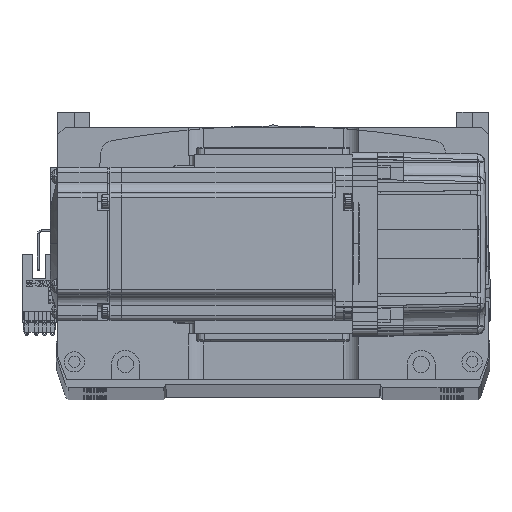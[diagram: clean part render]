
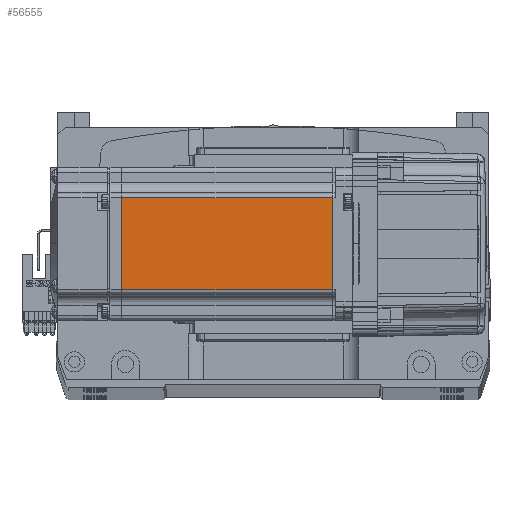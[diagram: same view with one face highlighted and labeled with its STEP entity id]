
A CAD part, top view. The second image highlights one B-rep face of the part: STEP entity #56555.
In plain terms, the highlighted planar face has unit normal (0, 0, 1).
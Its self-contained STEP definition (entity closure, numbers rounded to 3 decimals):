
#4233 = EDGE_CURVE ( 'NONE', #6695, #69656, #10860, .T. ) ;
#4998 = AXIS2_PLACEMENT_3D ( 'NONE', #46609, #56599, #67404 ) ;
#5127 = DIRECTION ( 'NONE',  ( 0., -1., 0. ) ) ;
#5770 = VERTEX_POINT ( 'NONE', #13994 ) ;
#6382 = ORIENTED_EDGE ( 'NONE', *, *, #4233, .T. ) ;
#6504 = CARTESIAN_POINT ( 'NONE',  ( -7.75, 0., 30. ) ) ;
#6695 = VERTEX_POINT ( 'NONE', #27291 ) ;
#6813 = CARTESIAN_POINT ( 'NONE',  ( -6.5, -18., 30. ) ) ;
#8554 = PLANE ( 'NONE',  #4998 ) ;
#9054 = LINE ( 'NONE', #6813, #47044 ) ;
#10860 = LINE ( 'NONE', #59596, #50669 ) ;
#11747 = DIRECTION ( 'NONE',  ( -1., 0., 0. ) ) ;
#13994 = CARTESIAN_POINT ( 'NONE',  ( -7.75, -18., 30. ) ) ;
#18161 = LINE ( 'NONE', #32039, #62145 ) ;
#21771 = EDGE_CURVE ( 'NONE', #69656, #32654, #18161, .T. ) ;
#27291 = CARTESIAN_POINT ( 'NONE',  ( -7.75, 18., 30. ) ) ;
#32039 = CARTESIAN_POINT ( 'NONE',  ( -90.45, 0., 30. ) ) ;
#32654 = VERTEX_POINT ( 'NONE', #57836 ) ;
#36070 = DIRECTION ( 'NONE',  ( -1., 0., 0. ) ) ;
#38043 = EDGE_LOOP ( 'NONE', ( #39556, #6382, #65827, #59849 ) ) ;
#39556 = ORIENTED_EDGE ( 'NONE', *, *, #63737, .F. ) ;
#42490 = FACE_OUTER_BOUND ( 'NONE', #38043, .T. ) ;
#44687 = EDGE_CURVE ( 'NONE', #5770, #32654, #9054, .T. ) ;
#44810 = DIRECTION ( 'NONE',  ( 0., -1., 0. ) ) ;
#46609 = CARTESIAN_POINT ( 'NONE',  ( -6.5, -25., 30. ) ) ;
#47044 = VECTOR ( 'NONE', #11747, 1000. ) ;
#50669 = VECTOR ( 'NONE', #36070, 1000. ) ;
#53453 = VECTOR ( 'NONE', #44810, 1000. ) ;
#56193 = CARTESIAN_POINT ( 'NONE',  ( -90.45, 18., 30. ) ) ;
#56555 = ADVANCED_FACE ( 'NONE', ( #42490 ), #8554, .T. ) ;
#56599 = DIRECTION ( 'NONE',  ( 0., 0., 1. ) ) ;
#57836 = CARTESIAN_POINT ( 'NONE',  ( -90.45, -18., 30. ) ) ;
#59596 = CARTESIAN_POINT ( 'NONE',  ( -6.5, 18., 30. ) ) ;
#59849 = ORIENTED_EDGE ( 'NONE', *, *, #44687, .F. ) ;
#62145 = VECTOR ( 'NONE', #5127, 1000. ) ;
#62752 = LINE ( 'NONE', #6504, #53453 ) ;
#63737 = EDGE_CURVE ( 'NONE', #6695, #5770, #62752, .T. ) ;
#65827 = ORIENTED_EDGE ( 'NONE', *, *, #21771, .T. ) ;
#67404 = DIRECTION ( 'NONE',  ( 1., 0., 0. ) ) ;
#69656 = VERTEX_POINT ( 'NONE', #56193 ) ;
